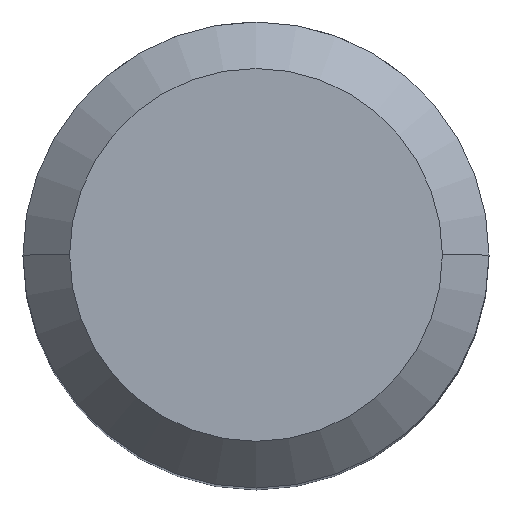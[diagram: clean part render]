
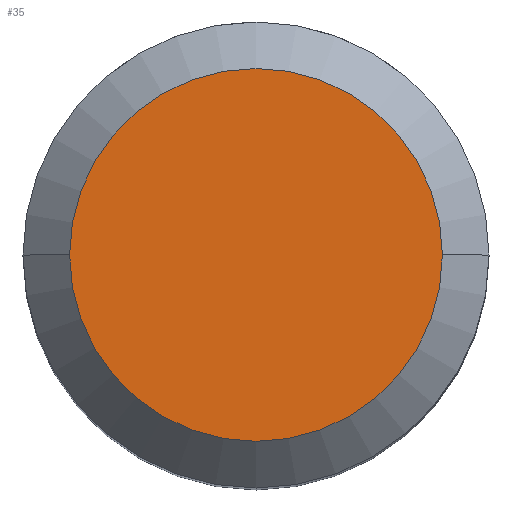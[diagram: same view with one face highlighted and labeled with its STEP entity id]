
A CAD part, top view. The second image highlights one B-rep face of the part: STEP entity #35.
In plain terms, the highlighted planar face has unit normal (0, 0, 1).
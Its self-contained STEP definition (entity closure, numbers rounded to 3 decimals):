
#18 = CARTESIAN_POINT ( 'NONE',  ( 8., 0., 0. ) ) ;
#31 = CIRCLE ( 'NONE', #343, 8. ) ;
#35 = ADVANCED_FACE ( 'NONE', ( #425 ), #328, .T. ) ;
#46 = AXIS2_PLACEMENT_3D ( 'NONE', #148, #188, #475 ) ;
#97 = EDGE_CURVE ( 'NONE', #534, #301, #354, .T. ) ;
#148 = CARTESIAN_POINT ( 'NONE',  ( 0., 0., 0. ) ) ;
#183 = CARTESIAN_POINT ( 'NONE',  ( 0., 8., 0. ) ) ;
#188 = DIRECTION ( 'NONE',  ( 0., 0., -1. ) ) ;
#231 = DIRECTION ( 'NONE',  ( 1., 0., 0. ) ) ;
#253 = EDGE_CURVE ( 'NONE', #301, #534, #31, .T. ) ;
#288 = ORIENTED_EDGE ( 'NONE', *, *, #253, .F. ) ;
#301 = VERTEX_POINT ( 'NONE', #18 ) ;
#328 = PLANE ( 'NONE',  #395 ) ;
#343 = AXIS2_PLACEMENT_3D ( 'NONE', #396, #478, #403 ) ;
#354 = CIRCLE ( 'NONE', #46, 8. ) ;
#395 = AXIS2_PLACEMENT_3D ( 'NONE', #183, #427, #231 ) ;
#396 = CARTESIAN_POINT ( 'NONE',  ( 0., 0., 0. ) ) ;
#403 = DIRECTION ( 'NONE',  ( -1., 0., 0. ) ) ;
#412 = EDGE_LOOP ( 'NONE', ( #547, #288 ) ) ;
#425 = FACE_OUTER_BOUND ( 'NONE', #412, .T. ) ;
#427 = DIRECTION ( 'NONE',  ( 0., 0., 1. ) ) ;
#467 = CARTESIAN_POINT ( 'NONE',  ( -8., 0., 0. ) ) ;
#475 = DIRECTION ( 'NONE',  ( -1., 0., 0. ) ) ;
#478 = DIRECTION ( 'NONE',  ( 0., 0., -1. ) ) ;
#534 = VERTEX_POINT ( 'NONE', #467 ) ;
#547 = ORIENTED_EDGE ( 'NONE', *, *, #97, .F. ) ;
